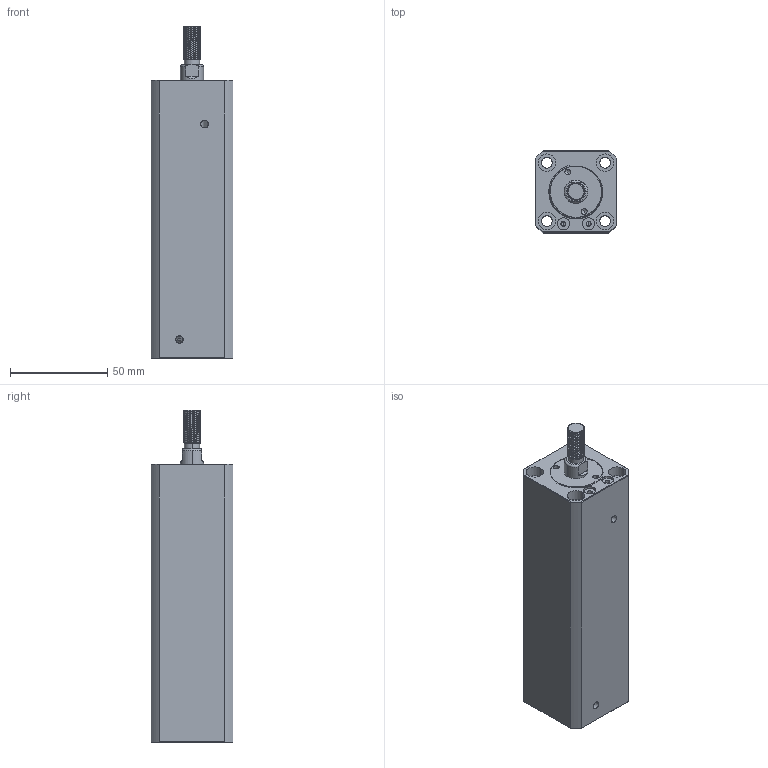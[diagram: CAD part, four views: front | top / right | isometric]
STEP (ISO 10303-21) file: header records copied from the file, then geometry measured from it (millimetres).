
FILE_DESCRIPTION (( 'STEP AP214' ), '1' );
FILE_NAME ('chtb-sdma20x100w_asm.STEP', '2018-05-18T06:35:34', ( 'Windows' ), ( 'Microsoft' ), 'SwSTEP 2.0', 'SolidWorks 2015', '' );
FILE_SCHEMA (( 'AUTOMOTIVE_DESIGN' ));
Length unit declared in the file: millimetre
Products named in the file (4): CHTB-SDMA20X100WHSG; CHTB-SDMA20X100NBT; chtb-sdma20x100w_asm; QG_3
Assembly tree (3 placements, depth 2):
  chtb-sdma20x100w_asm
    CHTB-SDMA20X100NBT
    CHTB-SDMA20X100WHSG
    QG_3
Bounding box: 42 x 42 x 171 mm (x, y, z)
Volume: 211602.8 mm3; surface area: 58708.6 mm2
Topology: 3 solids, 3 shells, 244 faces, 659 edges, 438 vertices
Faces by surface type: cylinder 143, plane 46, torus 25, bspline 23, cone 7
Entity records: 14742 total; most frequent: CARTESIAN_POINT 8953, ORIENTED_EDGE 1310, DIRECTION 1060, EDGE_CURVE 655, VERTEX_POINT 438, AXIS2_PLACEMENT_3D 437, EDGE_LOOP 283, ADVANCED_FACE 244
